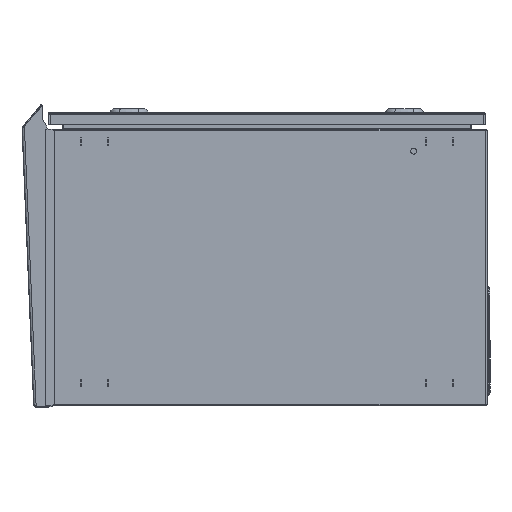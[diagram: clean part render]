
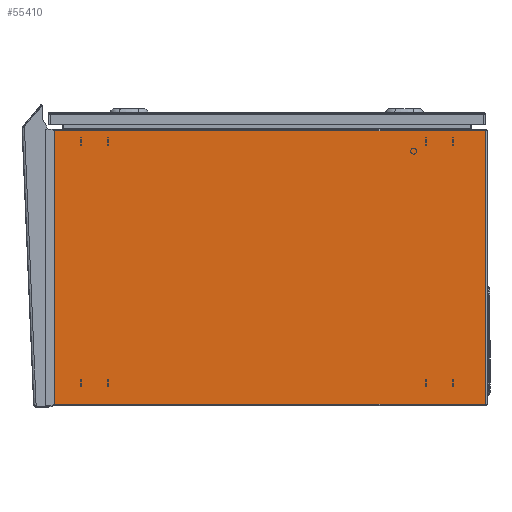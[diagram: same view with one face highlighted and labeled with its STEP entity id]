
A CAD part, left-side view. The second image highlights one B-rep face of the part: STEP entity #55410.
In plain terms, the highlighted planar face has unit normal (-1, 0, 0).
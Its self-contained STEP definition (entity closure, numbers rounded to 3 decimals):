
#3517 = DIRECTION ( 'NONE',  ( 0., 0., -1. ) ) ;
#4047 = VERTEX_POINT ( 'NONE', #44151 ) ;
#6496 = VECTOR ( 'NONE', #52563, 1000. ) ;
#7755 = CARTESIAN_POINT ( 'NONE',  ( -300., -300., 1.5 ) ) ;
#8454 = LINE ( 'NONE', #43535, #15770 ) ;
#8568 = ORIENTED_EDGE ( 'NONE', *, *, #23291, .F. ) ;
#9893 = CARTESIAN_POINT ( 'NONE',  ( -300., -300., 2.35 ) ) ;
#11923 = CARTESIAN_POINT ( 'NONE',  ( -300., 297.5, 1.5 ) ) ;
#14648 = LINE ( 'NONE', #9893, #6496 ) ;
#14817 = ORIENTED_EDGE ( 'NONE', *, *, #46462, .T. ) ;
#15668 = CARTESIAN_POINT ( 'NONE',  ( -300., -297.5, 374.5 ) ) ;
#15770 = VECTOR ( 'NONE', #46626, 1000. ) ;
#18331 = VECTOR ( 'NONE', #49304, 1000. ) ;
#18870 = VERTEX_POINT ( 'NONE', #15668 ) ;
#19855 = EDGE_LOOP ( 'NONE', ( #21302, #41565, #14817, #8568 ) ) ;
#21302 = ORIENTED_EDGE ( 'NONE', *, *, #24461, .T. ) ;
#22440 = VERTEX_POINT ( 'NONE', #51326 ) ;
#23291 = EDGE_CURVE ( 'NONE', #4047, #18870, #8454, .T. ) ;
#24461 = EDGE_CURVE ( 'NONE', #4047, #22440, #25177, .T. ) ;
#24946 = DIRECTION ( 'NONE',  ( 1., 0., 0. ) ) ;
#25177 = LINE ( 'NONE', #11923, #49039 ) ;
#26498 = CARTESIAN_POINT ( 'NONE',  ( -300., -297.5, 2.35 ) ) ;
#33295 = FACE_OUTER_BOUND ( 'NONE', #19855, .T. ) ;
#36407 = AXIS2_PLACEMENT_3D ( 'NONE', #7755, #24946, #3517 ) ;
#41565 = ORIENTED_EDGE ( 'NONE', *, *, #43666, .T. ) ;
#42224 = DIRECTION ( 'NONE',  ( 0., 0., -1. ) ) ;
#43535 = CARTESIAN_POINT ( 'NONE',  ( -300., 300., 374.5 ) ) ;
#43666 = EDGE_CURVE ( 'NONE', #22440, #50655, #14648, .T. ) ;
#44151 = CARTESIAN_POINT ( 'NONE',  ( -300., 297.5, 374.5 ) ) ;
#44813 = LINE ( 'NONE', #53538, #18331 ) ;
#46208 = PLANE ( 'NONE',  #36407 ) ;
#46462 = EDGE_CURVE ( 'NONE', #50655, #18870, #44813, .T. ) ;
#46626 = DIRECTION ( 'NONE',  ( 0., -1., 0. ) ) ;
#49039 = VECTOR ( 'NONE', #42224, 1000. ) ;
#49304 = DIRECTION ( 'NONE',  ( 0., 0., 1. ) ) ;
#50655 = VERTEX_POINT ( 'NONE', #26498 ) ;
#51326 = CARTESIAN_POINT ( 'NONE',  ( -300., 297.5, 2.35 ) ) ;
#52563 = DIRECTION ( 'NONE',  ( 0., -1., 0. ) ) ;
#53538 = CARTESIAN_POINT ( 'NONE',  ( -300., -297.5, 1.5 ) ) ;
#55410 = ADVANCED_FACE ( 'NONE', ( #33295 ), #46208, .F. ) ;
